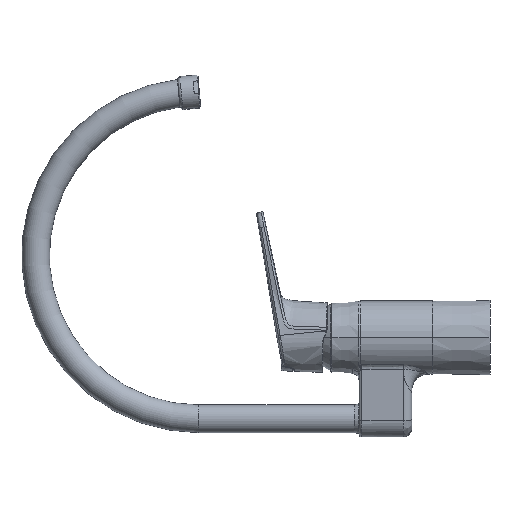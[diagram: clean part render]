
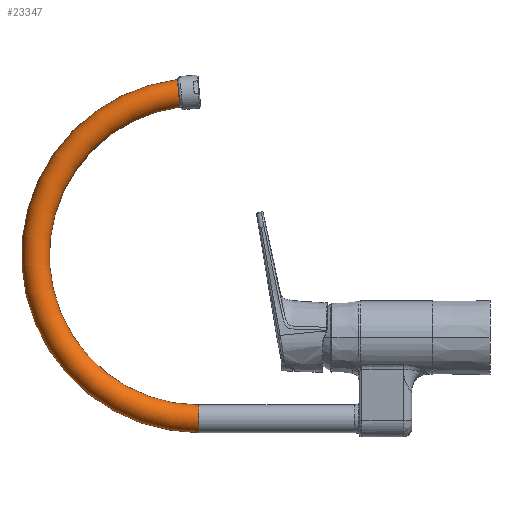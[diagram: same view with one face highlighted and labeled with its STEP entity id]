
A CAD part, left-side view. The second image highlights one B-rep face of the part: STEP entity #23347.
In plain terms, the highlighted toroidal (fillet/blend) face has major radius 118 mm and minor radius 10 mm.
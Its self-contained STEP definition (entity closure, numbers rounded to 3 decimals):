
#224 = DIRECTION ( 'NONE',  ( 0., -1., 0. ) ) ;
#711 = CARTESIAN_POINT ( 'NONE',  ( -308.759, 565.299, 682.61 ) ) ;
#791 = CARTESIAN_POINT ( 'NONE',  ( -305.625, 566.948, 701.453 ) ) ;
#792 = CARTESIAN_POINT ( 'NONE',  ( -312.814, 565.622, 686.301 ) ) ;
#908 = ORIENTED_EDGE ( 'NONE', *, *, #22223, .T. ) ;
#942 = CARTESIAN_POINT ( 'NONE',  ( -307.853, 565.266, 682.234 ) ) ;
#1328 = CARTESIAN_POINT ( 'NONE',  ( -304.315, 551.464, 574.474 ) ) ;
#2044 = CIRCLE ( 'NONE', #5127, 108. ) ;
#2453 = CARTESIAN_POINT ( 'NONE',  ( -314.315, 566.025, 690.908 ) ) ;
#2534 = CARTESIAN_POINT ( 'NONE',  ( -314.059, 565.884, 689.299 ) ) ;
#2724 = CARTESIAN_POINT ( 'NONE',  ( -304.315, 551.464, 574.474 ) ) ;
#2770 = CARTESIAN_POINT ( 'NONE',  ( -304.641, 566.955, 701.533 ) ) ;
#2841 = CARTESIAN_POINT ( 'NONE',  ( -311.857, 566.658, 698.144 ) ) ;
#3118 = AXIS2_PLACEMENT_3D ( 'NONE', #9449, #18417, #224 ) ;
#3526 = CIRCLE ( 'NONE', #9299, 10. ) ;
#3713 = CARTESIAN_POINT ( 'NONE',  ( -304.315, 551.464, 466.474 ) ) ;
#4257 = CARTESIAN_POINT ( 'NONE',  ( -312.266, 565.55, 685.483 ) ) ;
#4564 = CARTESIAN_POINT ( 'NONE',  ( -313.996, 566.308, 694.146 ) ) ;
#4565 = CARTESIAN_POINT ( 'NONE',  ( -310.92, 565.427, 684.073 ) ) ;
#4645 = EDGE_CURVE ( 'NONE', #16654, #14568, #21401, .T. ) ;
#4648 = CARTESIAN_POINT ( 'NONE',  ( -312.271, 566.614, 697.64 ) ) ;
#4730 = CARTESIAN_POINT ( 'NONE',  ( -310.418, 566.776, 699.488 ) ) ;
#4951 = DIRECTION ( 'NONE',  ( -1., 0., 0. ) ) ;
#5127 = AXIS2_PLACEMENT_3D ( 'NONE', #1328, #4951, #8255 ) ;
#6044 = B_SPLINE_CURVE_WITH_KNOTS ( 'NONE', 3,
 ( #20783, #9858, #7888, #20545, #19050, #11523, #15432, #11763, #942, #711, #17258, #6059, #13362, #4565, #6140, #8195, #4257, #792, #6292, #13599, #6377, #20862, #22286, #2534, #22437, #2453, #15113 ),
 .UNSPECIFIED., .F., .F.,
 ( 4, 2, 2, 2, 2, 2, 2, 2, 2, 2, 1, 2, 2, 4 ),
 ( 0.059, 0.06, 0.061, 0.062, 0.063, 0.065, 0.066, 0.067, 0.069, 0.07, 0.071, 0.072, 0.073, 0.075 ),
 .UNSPECIFIED. ) ;
#6059 = CARTESIAN_POINT ( 'NONE',  ( -310.147, 565.373, 683.46 ) ) ;
#6140 = CARTESIAN_POINT ( 'NONE',  ( -311.162, 565.446, 684.292 ) ) ;
#6288 = ORIENTED_EDGE ( 'NONE', *, *, #22649, .F. ) ;
#6292 = CARTESIAN_POINT ( 'NONE',  ( -312.983, 565.647, 686.583 ) ) ;
#6326 = DIRECTION ( 'NONE',  ( -1., 0., 0. ) ) ;
#6377 = CARTESIAN_POINT ( 'NONE',  ( -313.569, 565.748, 687.744 ) ) ;
#6534 = CARTESIAN_POINT ( 'NONE',  ( -308.746, 566.865, 700.507 ) ) ;
#6992 = EDGE_LOOP ( 'NONE', ( #21698, #15348, #18743, #6288, #908 ) ) ;
#7555 = VERTEX_POINT ( 'NONE', #3713 ) ;
#7888 = CARTESIAN_POINT ( 'NONE',  ( -304.967, 565.212, 681.611 ) ) ;
#8040 = CARTESIAN_POINT ( 'NONE',  ( -304.315, 566.955, 701.533 ) ) ;
#8118 = CARTESIAN_POINT ( 'NONE',  ( -313.808, 566.363, 694.768 ) ) ;
#8195 = CARTESIAN_POINT ( 'NONE',  ( -311.852, 565.507, 684.981 ) ) ;
#8255 = DIRECTION ( 'NONE',  ( 0., -1., 0. ) ) ;
#8273 = CARTESIAN_POINT ( 'NONE',  ( -310.923, 566.74, 699.076 ) ) ;
#8976 = B_SPLINE_CURVE_WITH_KNOTS ( 'NONE', 3,
 ( #11925, #17182, #20861, #4564, #8118, #20782, #13521, #22741, #20622, #4648, #2841, #8273, #4730, #22588, #9783, #6534, #9933, #15350, #10089, #11601, #791, #13680, #2770, #8040 ),
 .UNSPECIFIED., .F., .F.,
 ( 4, 2, 2, 2, 2, 2, 2, 2, 2, 2, 2, 4 ),
 ( 0.012, 0.014, 0.016, 0.017, 0.018, 0.02, 0.022, 0.023, 0.024, 0.026, 0.027, 0.028 ),
 .UNSPECIFIED. ) ;
#9232 = DIRECTION ( 'NONE',  ( 0., 0., 1. ) ) ;
#9299 = AXIS2_PLACEMENT_3D ( 'NONE', #21972, #11290, #9232 ) ;
#9449 = CARTESIAN_POINT ( 'NONE',  ( -304.315, 551.464, 574.474 ) ) ;
#9483 = EDGE_CURVE ( 'NONE', #21607, #16654, #8976, .T. ) ;
#9783 = CARTESIAN_POINT ( 'NONE',  ( -309.325, 566.838, 700.198 ) ) ;
#9858 = CARTESIAN_POINT ( 'NONE',  ( -304.641, 565.21, 681.595 ) ) ;
#9933 = CARTESIAN_POINT ( 'NONE',  ( -308.446, 566.877, 700.649 ) ) ;
#10089 = CARTESIAN_POINT ( 'NONE',  ( -306.914, 566.927, 701.213 ) ) ;
#11216 = CARTESIAN_POINT ( 'NONE',  ( -304.315, 551.464, 446.474 ) ) ;
#11290 = DIRECTION ( 'NONE',  ( 0., -1., 0. ) ) ;
#11523 = CARTESIAN_POINT ( 'NONE',  ( -306.593, 565.233, 681.852 ) ) ;
#11601 = CARTESIAN_POINT ( 'NONE',  ( -305.952, 566.943, 701.404 ) ) ;
#11763 = CARTESIAN_POINT ( 'NONE',  ( -307.541, 565.256, 682.123 ) ) ;
#11925 = CARTESIAN_POINT ( 'NONE',  ( -314.315, 566.082, 691.557 ) ) ;
#13232 = TOROIDAL_SURFACE ( 'NONE', #14856, 118., 10. ) ;
#13362 = CARTESIAN_POINT ( 'NONE',  ( -310.412, 565.391, 683.656 ) ) ;
#13499 = CARTESIAN_POINT ( 'NONE',  ( -304.315, 565.21, 681.595 ) ) ;
#13521 = CARTESIAN_POINT ( 'NONE',  ( -313.29, 566.468, 695.973 ) ) ;
#13599 = CARTESIAN_POINT ( 'NONE',  ( -313.291, 565.697, 687.157 ) ) ;
#13680 = CARTESIAN_POINT ( 'NONE',  ( -304.969, 566.953, 701.517 ) ) ;
#14535 = EDGE_CURVE ( 'NONE', #7555, #14568, #3526, .T. ) ;
#14568 = VERTEX_POINT ( 'NONE', #11216 ) ;
#14644 = FACE_OUTER_BOUND ( 'NONE', #6992, .T. ) ;
#14856 = AXIS2_PLACEMENT_3D ( 'NONE', #2724, #6326, #22934 ) ;
#15113 = CARTESIAN_POINT ( 'NONE',  ( -314.315, 566.082, 691.557 ) ) ;
#15348 = ORIENTED_EDGE ( 'NONE', *, *, #4645, .T. ) ;
#15350 = CARTESIAN_POINT ( 'NONE',  ( -307.537, 566.91, 701.024 ) ) ;
#15432 = CARTESIAN_POINT ( 'NONE',  ( -306.912, 565.24, 681.932 ) ) ;
#16654 = VERTEX_POINT ( 'NONE', #20694 ) ;
#17182 = CARTESIAN_POINT ( 'NONE',  ( -314.316, 566.139, 692.208 ) ) ;
#17258 = CARTESIAN_POINT ( 'NONE',  ( -309.332, 565.326, 682.917 ) ) ;
#17982 = VERTEX_POINT ( 'NONE', #13499 ) ;
#18417 = DIRECTION ( 'NONE',  ( -1., 0., 0. ) ) ;
#18623 = CARTESIAN_POINT ( 'NONE',  ( -314.315, 566.082, 691.557 ) ) ;
#18743 = ORIENTED_EDGE ( 'NONE', *, *, #14535, .F. ) ;
#19050 = CARTESIAN_POINT ( 'NONE',  ( -305.949, 565.222, 681.724 ) ) ;
#20545 = CARTESIAN_POINT ( 'NONE',  ( -305.622, 565.217, 681.676 ) ) ;
#20622 = CARTESIAN_POINT ( 'NONE',  ( -312.813, 566.543, 696.829 ) ) ;
#20694 = CARTESIAN_POINT ( 'NONE',  ( -304.315, 566.955, 701.533 ) ) ;
#20782 = CARTESIAN_POINT ( 'NONE',  ( -313.432, 566.442, 695.674 ) ) ;
#20783 = CARTESIAN_POINT ( 'NONE',  ( -304.315, 565.21, 681.595 ) ) ;
#20861 = CARTESIAN_POINT ( 'NONE',  ( -314.251, 566.197, 692.868 ) ) ;
#20862 = CARTESIAN_POINT ( 'NONE',  ( -313.788, 565.802, 688.356 ) ) ;
#21401 = CIRCLE ( 'NONE', #3118, 128. ) ;
#21607 = VERTEX_POINT ( 'NONE', #18623 ) ;
#21698 = ORIENTED_EDGE ( 'NONE', *, *, #9483, .T. ) ;
#21972 = CARTESIAN_POINT ( 'NONE',  ( -304.315, 551.464, 456.474 ) ) ;
#22223 = EDGE_CURVE ( 'NONE', #17982, #21607, #6044, .T. ) ;
#22286 = CARTESIAN_POINT ( 'NONE',  ( -313.978, 565.856, 688.979 ) ) ;
#22437 = CARTESIAN_POINT ( 'NONE',  ( -314.251, 565.969, 690.262 ) ) ;
#22588 = CARTESIAN_POINT ( 'NONE',  ( -309.605, 566.823, 700.03 ) ) ;
#22649 = EDGE_CURVE ( 'NONE', #17982, #7555, #2044, .T. ) ;
#22741 = CARTESIAN_POINT ( 'NONE',  ( -312.981, 566.519, 696.55 ) ) ;
#22934 = DIRECTION ( 'NONE',  ( 0., -1., 0. ) ) ;
#23347 = ADVANCED_FACE ( 'NONE', ( #14644 ), #13232, .T. ) ;
